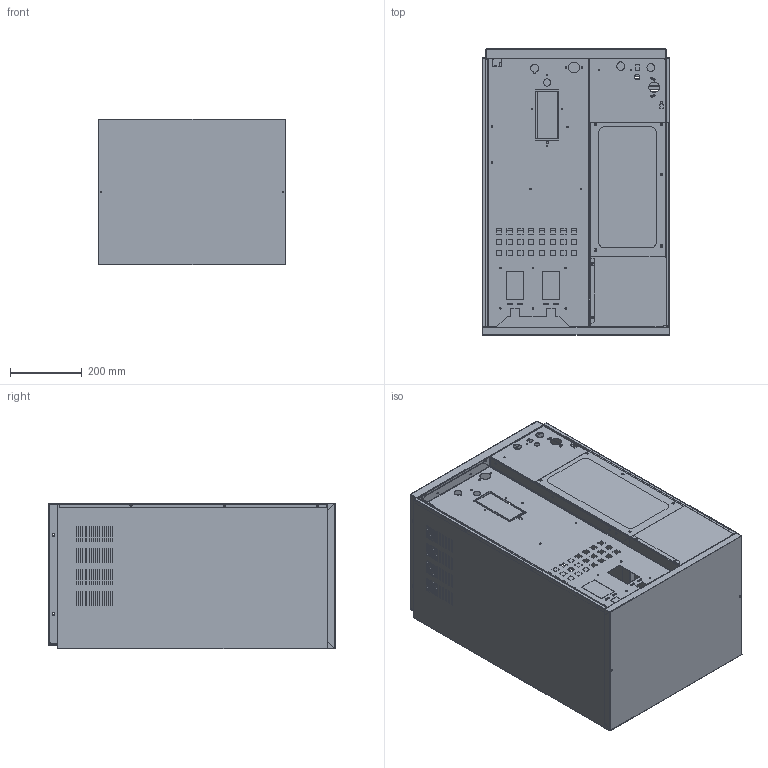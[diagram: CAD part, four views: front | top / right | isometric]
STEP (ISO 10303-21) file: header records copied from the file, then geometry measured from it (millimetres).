
FILE_DESCRIPTION(/* description */ ('Unknown'),/* implementation_level */ '2;1');
FILE_NAME(/* name */ 'GIQ-550',/* time_stamp */ '2018-04-23T16:56:40+02:00',/* author */ ('Unknown'),/* organization */ ('Unknown'),/* preprocessor_version */ 'ST-DEVELOPER v16.7',/* originating_system */ 'DEX',/* authorisation */ $);
FILE_SCHEMA (('CONFIG_CONTROL_DESIGN'));
Length unit declared in the file: millimetre
Products named in the file (10): GIQ-550; 24-158+3413; 24-156; 24-154; 24-160; 24-157; 24-155; 24-57+2715; 24-163+8421; 24-223_oa_0
Assembly tree (9 placements, depth 2):
  GIQ-550
    24-158+3413
    24-156
    24-154
    24-160
    24-157
    24-155
    24-57+2715
    24-163+8421
    24-223_oa_0
Bounding box: 521.81 x 799 x 407.2 mm (x, y, z)
Volume: 1844961.2 mm3; surface area: 4345963.5 mm2
Topology: 9 solids, 9 shells, 1577 faces, 4255 edges, 2717 vertices
Faces by surface type: plane 1125, cylinder 389, bspline 63
Full cylindrical faces by diameter (mm): 1 x35, 2.5 x1, 2.542 x1, 2.546 x1, 2.626 x1, 2.7 x3, 3.25 x8, 3.5 x8, 4 x44, 4.25 x21, 5 x22, 6 x12, 6.25 x2, 8 x4, 9 x7, 15 x2, 20 x1, 22 x1, 30 x3
Entity records: 51860 total; most frequent: CARTESIAN_POINT 9873, ORIENTED_EDGE 8114, DIRECTION 7672, EDGE_CURVE 4057, LINE 3232, VECTOR 3232, VERTEX_POINT 2696, EDGE_LOOP 2377
